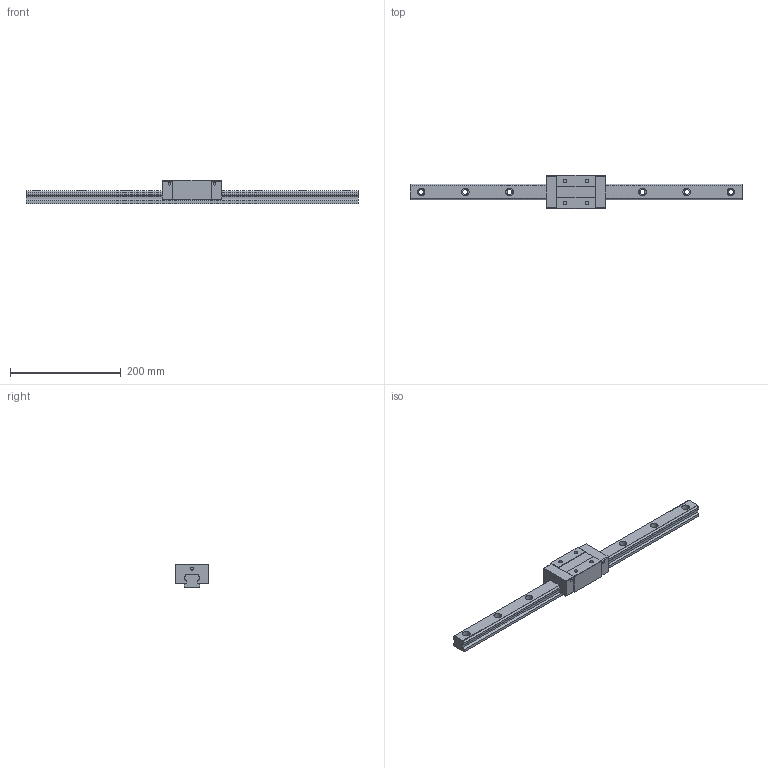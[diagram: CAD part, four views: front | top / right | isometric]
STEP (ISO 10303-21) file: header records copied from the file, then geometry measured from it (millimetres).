
FILE_DESCRIPTION (( 'STEP AP203' ), '1' );
FILE_NAME ('TRS30VN-WW.STEP', '2024-05-23T08:32:14', ( '' ), ( '' ), 'SwSTEP 2.0', 'SolidWorks 2022', '' );
FILE_SCHEMA (( 'CONFIG_CONTROL_DESIGN' ));
Length unit declared in the file: millimetre
Products named in the file (1): TRS30VN-WW
Bounding box: 600 x 60 x 42 mm (x, y, z)
Volume: 500357.9 mm3; surface area: 98777.2 mm2
Topology: 2 solids, 2 shells, 178 faces, 464 edges, 308 vertices
Faces by surface type: plane 90, cylinder 88
Entity records: 5619 total; most frequent: DIRECTION 998, CARTESIAN_POINT 951, ORIENTED_EDGE 928, EDGE_CURVE 464, AXIS2_PLACEMENT_3D 355, VERTEX_POINT 308, VECTOR 288, LINE 288
